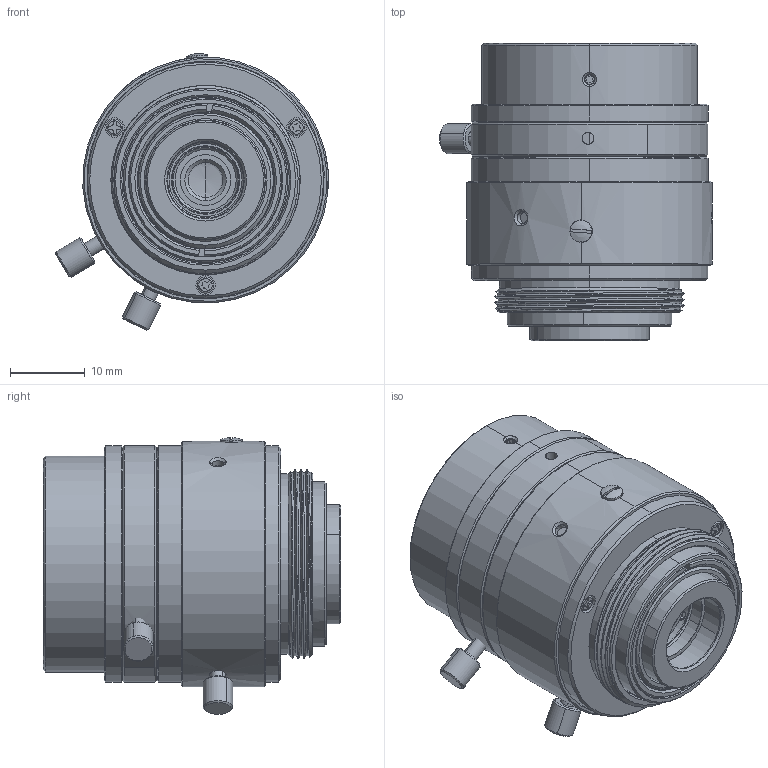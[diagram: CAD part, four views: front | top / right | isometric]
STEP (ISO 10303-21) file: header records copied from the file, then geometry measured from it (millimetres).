
FILE_DESCRIPTION((''),'2;1');
FILE_NAME('PHX-16-ZP_ASM','2020-06-05T',('sirtec'),(''),'CREO PARAMETRIC BY PTC INC, 2014190','CREO PARAMETRIC BY PTC INC, 2014190','');
FILE_SCHEMA(('CONFIG_CONTROL_DESIGN'));
Length unit declared in the file: millimetre
Products named in the file (27): PHX-16-201; PHX-16-G01; PHX-16-101; PHX-16-102; PHX-16-01_ASM; PHX-16-401; PHX-16-106; PHX-16-107; PHX-16-109; PHX-16-108; PHX-16-406; PHX-16-405; PHX-16-02_ASM; PHX-16-402; PHX-16-202; PHX-16-403; PHX-16-404; PHX-16-307; PHX-16-301; PHX-16-203; PHX-16-308; PHX-16-407; PHX-16-502; PHX-16-501; PHX-16-504; PHX-16-503; PHX-16-ZP_ASM
Assembly tree (35 placements, depth 3):
  PHX-16-ZP_ASM
    PHX-16-201
    PHX-16-01_ASM
      PHX-16-G01
      PHX-16-101
      PHX-16-102
    PHX-16-401
    PHX-16-02_ASM
      PHX-16-106
      PHX-16-107
      PHX-16-109
      PHX-16-108
      PHX-16-406  x3
      PHX-16-405  x3
    PHX-16-402
    PHX-16-202
    PHX-16-403
    PHX-16-404
    PHX-16-307
    PHX-16-301
    PHX-16-203
    PHX-16-308
    PHX-16-407
    PHX-16-502  x3
    PHX-16-501  x2
    PHX-16-504
    PHX-16-503  x3
Bounding box: 36.64 x 39.96 x 37.14 mm (x, y, z)
Volume: 16841.7 mm3; surface area: 27806.8 mm2
Topology: 33 solids, 33 shells, 1191 faces, 2864 edges, 1788 vertices
Faces by surface type: cylinder 427, cone 303, plane 274, bspline 169, torus 12, sphere 6
Entity records: 55013 total; most frequent: CARTESIAN_POINT 31677, ORIENTED_EDGE 4888, DIRECTION 4502, EDGE_CURVE 2444, AXIS2_PLACEMENT_3D 1786, VERTEX_POINT 1530, EDGE_LOOP 1152, FACE_OUTER_BOUND 1006
